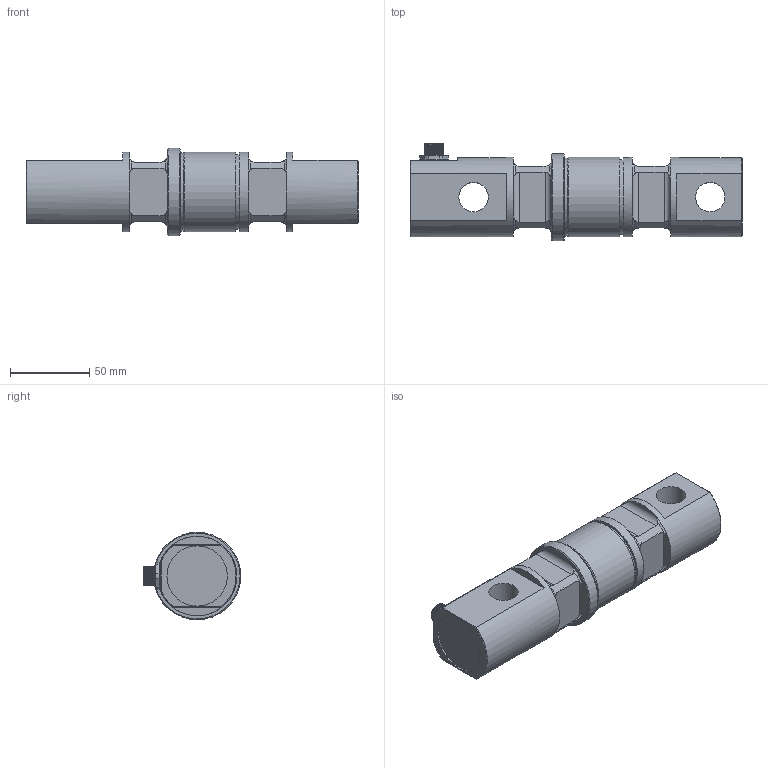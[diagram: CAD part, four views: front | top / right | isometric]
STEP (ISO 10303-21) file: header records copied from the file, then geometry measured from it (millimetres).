
FILE_DESCRIPTION(/* description */ ('Alibre Inc.'),/* implementation_level */ '2;1');
FILE_NAME(/* name */ 'export0',/* time_stamp */ '2015-06-08T22:19:41+02:00',/* author */ (''),/* organization */ (''),/* preprocessor_version */ 'ST-DEVELOPER v14',/* originating_system */ 'Alibre',/* authorisation */ '');
FILE_SCHEMA (('CONFIG_CONTROL_DESIGN'));
Length unit declared in the file: centimetre
Products named in the file (6): ID_1; ID_2; ID_3; ID_4
Bounding box: 209 x 61.5 x 55 mm (x, y, z)
Volume: 339699.3 mm3; surface area: 46917 mm2
Topology: 8 solids, 8 shells, 221 faces, 512 edges, 315 vertices
Faces by surface type: plane 90, cylinder 76, bspline 23, torus 19, cone 13
Full cylindrical faces by diameter (mm): 0.5 x8, 8 x2, 10 x3, 11.5 x1, 13 x1, 14.376 x1, 18.5 x2, 38 x1, 47 x1, 49.2 x1, 50 x4, 55 x1
Entity records: 19195 total; most frequent: CARTESIAN_POINT 14540, ORIENTED_EDGE 928, DIRECTION 603, EDGE_CURVE 459, VERTEX_POINT 301, FACE_BOUND 279, EDGE_LOOP 277, AXIS2_PLACEMENT_3D 268
